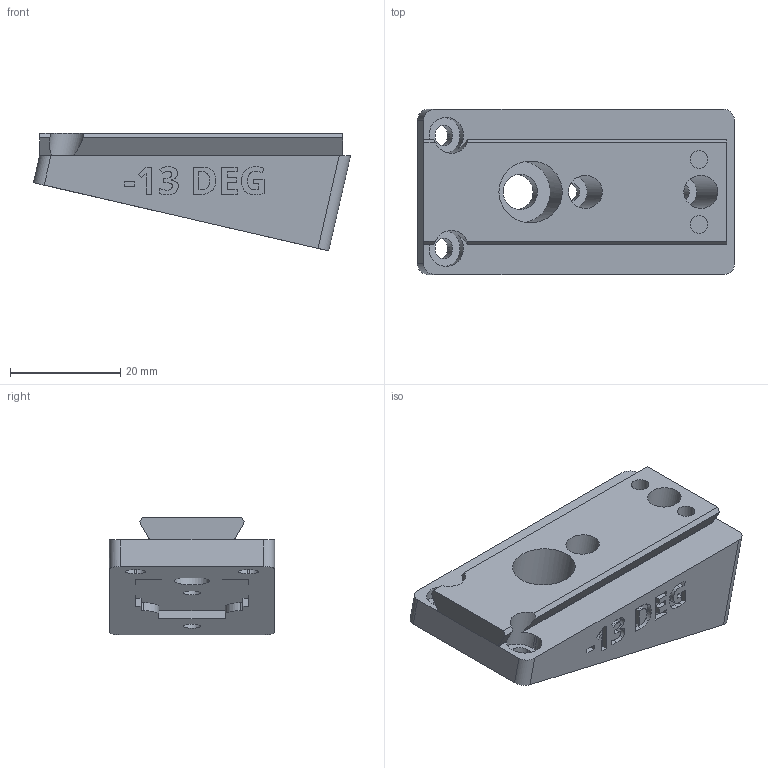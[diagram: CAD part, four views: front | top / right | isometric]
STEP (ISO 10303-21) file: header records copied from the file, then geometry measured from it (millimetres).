
FILE_DESCRIPTION(/* description */ ('STEP AP242 Edition 2','CAx-IF Rec.Pracs.---Representation and Presentation of Product Manufacturing Information (PMI)---4.0---2014-10-13','CAx-IF Rec.Pracs.---3D Tessellated Geometry---0.4---2014-09-14','2;1','CAx-IF Rec.Pracs.---User Defined Attributes---1.5---2016-08-15'),/* implementation_level */ '2;1');
FILE_NAME(/* name */ 'Camera Wedges - CAMERA MOUNTING WEDGE, NEG, -13 DEG',/* time_stamp */ '2026-07-08T20:34:29Z',/* author */ (''),/* organization */ (''),/* preprocessor_version */ 'ST-DEVELOPER v20',/* originating_system */ 'ONSHAPE BY PTC INC, 1.217',/* authorisation */ ' ');
FILE_SCHEMA (('AP242_MANAGED_MODEL_BASED_3D_ENGINEERING_MIM_LF { 1 0 10303 442 3 1 4 }'));
Length unit declared in the file: metre
Products named in the file (1): CAMERA MOUNTING WEDGE, NEG, -13 DEG
Bounding box: 57.57 x 30 x 21.35 mm (x, y, z)
Volume: 19514.7 mm3; surface area: 7478.9 mm2
Topology: 1 solids, 1 shells, 259 faces, 709 edges, 472 vertices
Faces by surface type: plane 151, bspline 66, cylinder 42
Full cylindrical faces by diameter (mm): 3.2 x4, 6 x2, 6.4 x1, 11.2 x1
Entity records: 8389 total; most frequent: CARTESIAN_POINT 2159, ORIENTED_EDGE 1402, DIRECTION 1053, EDGE_CURVE 701, LINE 473, VECTOR 473, VERTEX_POINT 472, EDGE_LOOP 297
